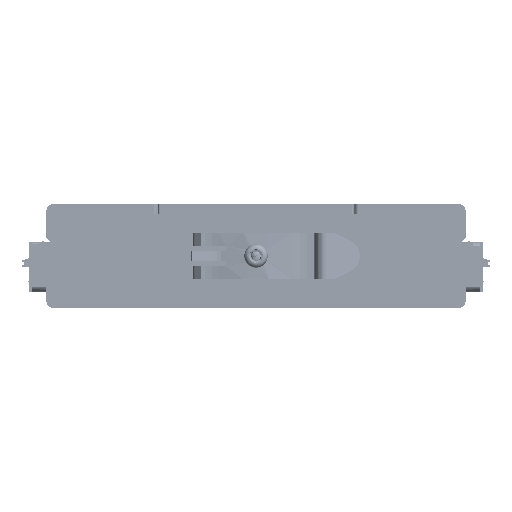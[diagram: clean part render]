
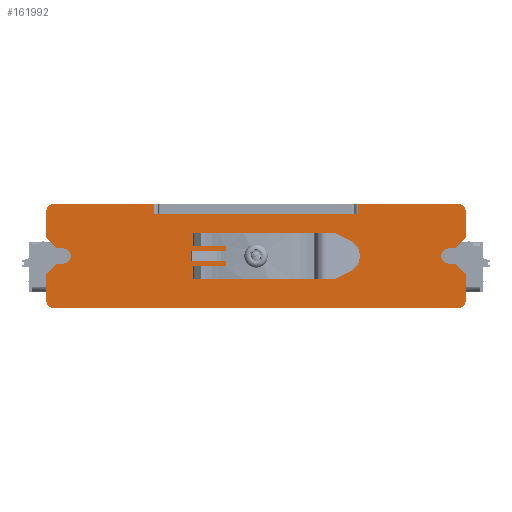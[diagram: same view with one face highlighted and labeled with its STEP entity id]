
A CAD part, left-side view. The second image highlights one B-rep face of the part: STEP entity #161992.
In plain terms, the highlighted planar face has unit normal (-1, 0, 0).
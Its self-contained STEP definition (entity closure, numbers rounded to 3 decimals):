
#9496=CIRCLE('',#171829,2.);
#9497=CIRCLE('',#171830,2.25);
#9498=CIRCLE('',#171831,2.);
#9499=CIRCLE('',#171832,2.);
#9500=CIRCLE('',#171833,2.25);
#9501=CIRCLE('',#171834,2.);
#9502=CIRCLE('',#171835,1.65);
#9503=CIRCLE('',#171836,1.65);
#13819=FACE_BOUND('',#24634,.T.);
#15718=FACE_OUTER_BOUND('',#24633,.T.);
#24633=EDGE_LOOP('',(#110035,#110036,#110037,#110038,#110039,#110040,#110041,
#110042,#110043,#110044,#110045,#110046,#110047,#110048,#110049,#110050,
#110051,#110052,#110053,#110054,#110055,#110056,#110057,#110058));
#24634=EDGE_LOOP('',(#110059,#110060));
#34342=LINE('',#230917,#52224);
#34778=LINE('',#231968,#52660);
#34779=LINE('',#231971,#52661);
#34782=LINE('',#231978,#52664);
#34783=LINE('',#231980,#52665);
#34784=LINE('',#231982,#52666);
#34785=LINE('',#231986,#52667);
#34786=LINE('',#231988,#52668);
#34787=LINE('',#231990,#52669);
#34788=LINE('',#231994,#52670);
#34789=LINE('',#231996,#52671);
#34790=LINE('',#231998,#52672);
#34791=LINE('',#232003,#52673);
#34792=LINE('',#232005,#52674);
#34793=LINE('',#232007,#52675);
#34794=LINE('',#232011,#52676);
#34795=LINE('',#232013,#52677);
#34796=LINE('',#232015,#52678);
#52224=VECTOR('',#185685,10.);
#52660=VECTOR('',#186457,10.);
#52661=VECTOR('',#186460,10.);
#52664=VECTOR('',#186467,10.);
#52665=VECTOR('',#186468,10.);
#52666=VECTOR('',#186469,10.);
#52667=VECTOR('',#186472,10.);
#52668=VECTOR('',#186473,10.);
#52669=VECTOR('',#186474,10.);
#52670=VECTOR('',#186477,10.);
#52671=VECTOR('',#186478,10.);
#52672=VECTOR('',#186479,10.);
#52673=VECTOR('',#186484,10.);
#52674=VECTOR('',#186485,10.);
#52675=VECTOR('',#186486,10.);
#52676=VECTOR('',#186489,10.);
#52677=VECTOR('',#186490,10.);
#52678=VECTOR('',#186491,10.);
#70062=VERTEX_POINT('',#230913);
#70064=VERTEX_POINT('',#230916);
#70508=VERTEX_POINT('',#231961);
#70511=VERTEX_POINT('',#231966);
#70512=VERTEX_POINT('',#231970);
#70514=VERTEX_POINT('',#231977);
#70515=VERTEX_POINT('',#231979);
#70516=VERTEX_POINT('',#231981);
#70517=VERTEX_POINT('',#231983);
#70518=VERTEX_POINT('',#231985);
#70519=VERTEX_POINT('',#231987);
#70520=VERTEX_POINT('',#231989);
#70521=VERTEX_POINT('',#231991);
#70522=VERTEX_POINT('',#231993);
#70523=VERTEX_POINT('',#231995);
#70524=VERTEX_POINT('',#231997);
#70525=VERTEX_POINT('',#232000);
#70526=VERTEX_POINT('',#232002);
#70527=VERTEX_POINT('',#232004);
#70528=VERTEX_POINT('',#232006);
#70529=VERTEX_POINT('',#232008);
#70530=VERTEX_POINT('',#232010);
#70531=VERTEX_POINT('',#232012);
#70532=VERTEX_POINT('',#232014);
#70533=VERTEX_POINT('',#232017);
#70534=VERTEX_POINT('',#232018);
#85425=EDGE_CURVE('',#70064,#70062,#34342,.T.);
#85951=EDGE_CURVE('',#70511,#70508,#34778,.T.);
#85952=EDGE_CURVE('',#70512,#70508,#34779,.T.);
#85956=EDGE_CURVE('',#70514,#70511,#34782,.T.);
#85957=EDGE_CURVE('',#70515,#70514,#34783,.T.);
#85958=EDGE_CURVE('',#70515,#70516,#34784,.T.);
#85959=EDGE_CURVE('',#70517,#70516,#9496,.T.);
#85960=EDGE_CURVE('',#70517,#70518,#34785,.T.);
#85961=EDGE_CURVE('',#70519,#70518,#34786,.T.);
#85962=EDGE_CURVE('',#70519,#70520,#34787,.T.);
#85963=EDGE_CURVE('',#70520,#70521,#9497,.T.);
#85964=EDGE_CURVE('',#70521,#70522,#34788,.T.);
#85965=EDGE_CURVE('',#70523,#70522,#34789,.T.);
#85966=EDGE_CURVE('',#70523,#70524,#34790,.T.);
#85967=EDGE_CURVE('',#70064,#70524,#9498,.T.);
#85968=EDGE_CURVE('',#70525,#70062,#9499,.T.);
#85969=EDGE_CURVE('',#70525,#70526,#34791,.T.);
#85970=EDGE_CURVE('',#70527,#70526,#34792,.T.);
#85971=EDGE_CURVE('',#70527,#70528,#34793,.T.);
#85972=EDGE_CURVE('',#70528,#70529,#9500,.T.);
#85973=EDGE_CURVE('',#70529,#70530,#34794,.T.);
#85974=EDGE_CURVE('',#70531,#70530,#34795,.T.);
#85975=EDGE_CURVE('',#70531,#70532,#34796,.T.);
#85976=EDGE_CURVE('',#70512,#70532,#9501,.T.);
#85977=EDGE_CURVE('',#70533,#70534,#9502,.T.);
#85978=EDGE_CURVE('',#70534,#70533,#9503,.T.);
#110035=ORIENTED_EDGE('',*,*,#85951,.F.);
#110036=ORIENTED_EDGE('',*,*,#85956,.F.);
#110037=ORIENTED_EDGE('',*,*,#85957,.F.);
#110038=ORIENTED_EDGE('',*,*,#85958,.T.);
#110039=ORIENTED_EDGE('',*,*,#85959,.F.);
#110040=ORIENTED_EDGE('',*,*,#85960,.T.);
#110041=ORIENTED_EDGE('',*,*,#85961,.F.);
#110042=ORIENTED_EDGE('',*,*,#85962,.T.);
#110043=ORIENTED_EDGE('',*,*,#85963,.T.);
#110044=ORIENTED_EDGE('',*,*,#85964,.T.);
#110045=ORIENTED_EDGE('',*,*,#85965,.F.);
#110046=ORIENTED_EDGE('',*,*,#85966,.T.);
#110047=ORIENTED_EDGE('',*,*,#85967,.F.);
#110048=ORIENTED_EDGE('',*,*,#85425,.T.);
#110049=ORIENTED_EDGE('',*,*,#85968,.F.);
#110050=ORIENTED_EDGE('',*,*,#85969,.T.);
#110051=ORIENTED_EDGE('',*,*,#85970,.F.);
#110052=ORIENTED_EDGE('',*,*,#85971,.T.);
#110053=ORIENTED_EDGE('',*,*,#85972,.T.);
#110054=ORIENTED_EDGE('',*,*,#85973,.T.);
#110055=ORIENTED_EDGE('',*,*,#85974,.F.);
#110056=ORIENTED_EDGE('',*,*,#85975,.T.);
#110057=ORIENTED_EDGE('',*,*,#85976,.F.);
#110058=ORIENTED_EDGE('',*,*,#85952,.T.);
#110059=ORIENTED_EDGE('',*,*,#85977,.T.);
#110060=ORIENTED_EDGE('',*,*,#85978,.T.);
#155458=PLANE('',#171828);
#161992=ADVANCED_FACE('',(#15718,#13819),#155458,.F.);
#171828=AXIS2_PLACEMENT_3D('',#231976,#186465,#186466);
#171829=AXIS2_PLACEMENT_3D('',#231984,#186470,#186471);
#171830=AXIS2_PLACEMENT_3D('',#231992,#186475,#186476);
#171831=AXIS2_PLACEMENT_3D('',#231999,#186480,#186481);
#171832=AXIS2_PLACEMENT_3D('',#232001,#186482,#186483);
#171833=AXIS2_PLACEMENT_3D('',#232009,#186487,#186488);
#171834=AXIS2_PLACEMENT_3D('',#232016,#186492,#186493);
#171835=AXIS2_PLACEMENT_3D('',#232019,#186494,#186495);
#171836=AXIS2_PLACEMENT_3D('',#232020,#186496,#186497);
#185685=DIRECTION('',(0.,-1.,0.));
#186457=DIRECTION('',(0.,0.,1.));
#186460=DIRECTION('',(0.,1.,0.));
#186465=DIRECTION('center_axis',(1.,0.,0.));
#186466=DIRECTION('ref_axis',(0.,0.,-1.));
#186467=DIRECTION('',(0.,-1.,0.));
#186468=DIRECTION('',(0.,0.,-1.));
#186469=DIRECTION('',(0.,1.,0.));
#186470=DIRECTION('center_axis',(1.,0.,0.));
#186471=DIRECTION('ref_axis',(0.,0.707,0.707));
#186472=DIRECTION('',(0.,0.,-1.));
#186473=DIRECTION('',(0.,0.707,0.707));
#186474=DIRECTION('',(0.,-1.,0.));
#186475=DIRECTION('center_axis',(1.,0.,0.));
#186476=DIRECTION('ref_axis',(0.,0.,-1.));
#186477=DIRECTION('',(0.,1.,0.));
#186478=DIRECTION('',(0.,-0.707,0.707));
#186479=DIRECTION('',(0.,0.,-1.));
#186480=DIRECTION('center_axis',(1.,0.,0.));
#186481=DIRECTION('ref_axis',(0.,0.707,-0.707));
#186482=DIRECTION('center_axis',(1.,0.,0.));
#186483=DIRECTION('ref_axis',(0.,-0.707,-0.707));
#186484=DIRECTION('',(0.,0.,1.));
#186485=DIRECTION('',(0.,-0.707,-0.707));
#186486=DIRECTION('',(0.,1.,0.));
#186487=DIRECTION('center_axis',(1.,0.,0.));
#186488=DIRECTION('ref_axis',(0.,0.,-1.));
#186489=DIRECTION('',(0.,-1.,0.));
#186490=DIRECTION('',(0.,0.707,-0.707));
#186491=DIRECTION('',(0.,0.,1.));
#186492=DIRECTION('center_axis',(1.,0.,0.));
#186493=DIRECTION('ref_axis',(0.,-0.707,0.707));
#186494=DIRECTION('center_axis',(1.,0.,0.));
#186495=DIRECTION('ref_axis',(0.,0.,1.));
#186496=DIRECTION('center_axis',(1.,0.,0.));
#186497=DIRECTION('ref_axis',(0.,0.,1.));
#230913=CARTESIAN_POINT('',(-57.5,-60.5,0.));
#230916=CARTESIAN_POINT('',(-57.5,60.5,0.));
#230917=CARTESIAN_POINT('',(-57.5,-62.5,0.));
#231961=CARTESIAN_POINT('',(-57.5,-30.514,31.));
#231966=CARTESIAN_POINT('',(-57.5,-30.514,28.));
#231968=CARTESIAN_POINT('',(-57.5,-30.514,23.25));
#231970=CARTESIAN_POINT('',(-57.5,-60.5,31.));
#231971=CARTESIAN_POINT('',(-57.5,62.5,31.));
#231976=CARTESIAN_POINT('Origin',(-57.5,0.,15.5));
#231977=CARTESIAN_POINT('',(-57.5,30.514,28.));
#231978=CARTESIAN_POINT('',(-57.5,0.,28.));
#231979=CARTESIAN_POINT('',(-57.5,30.514,31.));
#231980=CARTESIAN_POINT('',(-57.5,30.514,23.25));
#231981=CARTESIAN_POINT('',(-57.5,60.5,31.));
#231982=CARTESIAN_POINT('',(-57.5,62.5,31.));
#231983=CARTESIAN_POINT('',(-57.5,62.5,29.));
#231984=CARTESIAN_POINT('Origin',(-57.5,60.5,29.));
#231985=CARTESIAN_POINT('',(-57.5,62.5,20.75));
#231986=CARTESIAN_POINT('',(-57.5,62.5,0.));
#231987=CARTESIAN_POINT('',(-57.5,59.5,17.75));
#231988=CARTESIAN_POINT('',(-57.5,44.813,3.063));
#231989=CARTESIAN_POINT('',(-57.5,57.5,17.75));
#231990=CARTESIAN_POINT('',(-57.5,31.25,17.75));
#231991=CARTESIAN_POINT('',(-57.5,57.5,13.25));
#231992=CARTESIAN_POINT('Origin',(-57.5,57.5,15.5));
#231993=CARTESIAN_POINT('',(-57.5,59.5,13.25));
#231994=CARTESIAN_POINT('',(-57.5,28.75,13.25));
#231995=CARTESIAN_POINT('',(-57.5,62.5,10.25));
#231996=CARTESIAN_POINT('',(-57.5,44.813,27.938));
#231997=CARTESIAN_POINT('',(-57.5,62.5,2.));
#231998=CARTESIAN_POINT('',(-57.5,62.5,0.));
#231999=CARTESIAN_POINT('Origin',(-57.5,60.5,2.));
#232000=CARTESIAN_POINT('',(-57.5,-62.5,2.));
#232001=CARTESIAN_POINT('Origin',(-57.5,-60.5,2.));
#232002=CARTESIAN_POINT('',(-57.5,-62.5,10.25));
#232003=CARTESIAN_POINT('',(-57.5,-62.5,31.));
#232004=CARTESIAN_POINT('',(-57.5,-59.5,13.25));
#232005=CARTESIAN_POINT('',(-57.5,-44.813,27.938));
#232006=CARTESIAN_POINT('',(-57.5,-57.5,13.25));
#232007=CARTESIAN_POINT('',(-57.5,-28.75,13.25));
#232008=CARTESIAN_POINT('',(-57.5,-57.5,17.75));
#232009=CARTESIAN_POINT('Origin',(-57.5,-57.5,15.5));
#232010=CARTESIAN_POINT('',(-57.5,-59.5,17.75));
#232011=CARTESIAN_POINT('',(-57.5,-31.25,17.75));
#232012=CARTESIAN_POINT('',(-57.5,-62.5,20.75));
#232013=CARTESIAN_POINT('',(-57.5,-44.813,3.063));
#232014=CARTESIAN_POINT('',(-57.5,-62.5,29.));
#232015=CARTESIAN_POINT('',(-57.5,-62.5,31.));
#232016=CARTESIAN_POINT('Origin',(-57.5,-60.5,29.));
#232017=CARTESIAN_POINT('',(-57.5,0.,17.15));
#232018=CARTESIAN_POINT('',(-57.5,0.,13.85));
#232019=CARTESIAN_POINT('Origin',(-57.5,0.,15.5));
#232020=CARTESIAN_POINT('Origin',(-57.5,0.,15.5));
